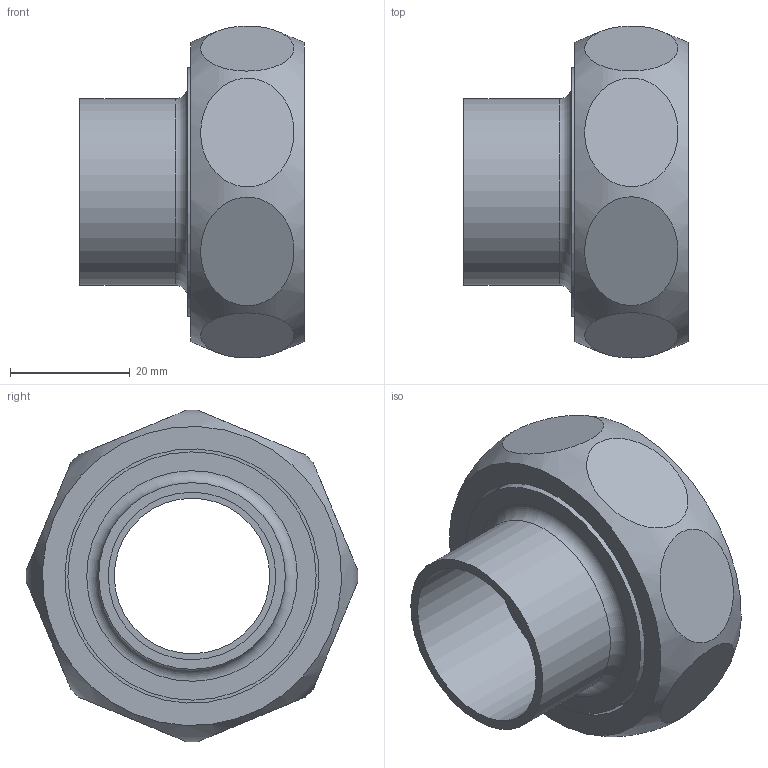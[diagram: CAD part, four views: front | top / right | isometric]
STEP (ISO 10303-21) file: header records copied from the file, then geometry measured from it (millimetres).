
FILE_DESCRIPTION(/* description */ (''),/* implementation_level */ '2;1');
FILE_NAME(/* name */ '\\LG50011\SANHA_Legnica\Engineering\Public\RYSUNKI\SANHA POLSKA\4359g\inventor\14359g_28-112(1).stp',/* time_stamp */ '2017-06-08T10:26:20+02:00',/* author */ ('gomulka'),/* organization */ (''),/* preprocessor_version */ 'ST-DEVELOPER v15.6',/* originating_system */ 'Autodesk Inventor 2015',/* authorisation */ '');
FILE_SCHEMA (('AUTOMOTIVE_DESIGN { 1 0 10303 214 3 1 1 }'));
Length unit declared in the file: millimetre
Products named in the file (4): 14374_112(1); 1DCU112; 14372_28-112(1); 14359g_28-112(1)
Assembly tree (3 placements, depth 2):
  14359g_28-112(1)
    14374_112(1)
    1DCU112
    14372_28-112(1)
Bounding box: 37.5 x 55.49 x 55.49 mm (x, y, z)
Volume: 23327.6 mm3; surface area: 15888.5 mm2
Topology: 3 solids, 3 shells, 30 faces, 46 edges, 33 vertices
Faces by surface type: plane 18, cylinder 9, cone 1, bspline 1, torus 1
Full cylindrical faces by diameter (mm): 26 x1, 28 x1, 31.2 x1, 32 x1, 41.5 x1, 42.5 x1, 44 x1, 44.5 x1, 44.845 x1
Entity records: 1334 total; most frequent: CARTESIAN_POINT 720, DIRECTION 120, ORIENTED_EDGE 70, AXIS2_PLACEMENT_3D 60, EDGE_LOOP 58, EDGE_CURVE 35, VERTEX_POINT 33, FACE_OUTER_BOUND 30
